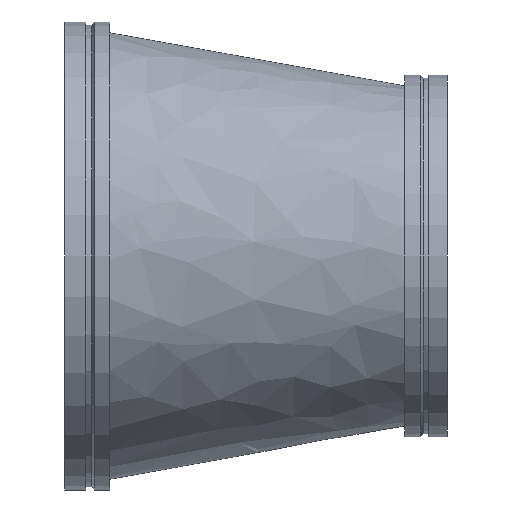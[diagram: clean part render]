
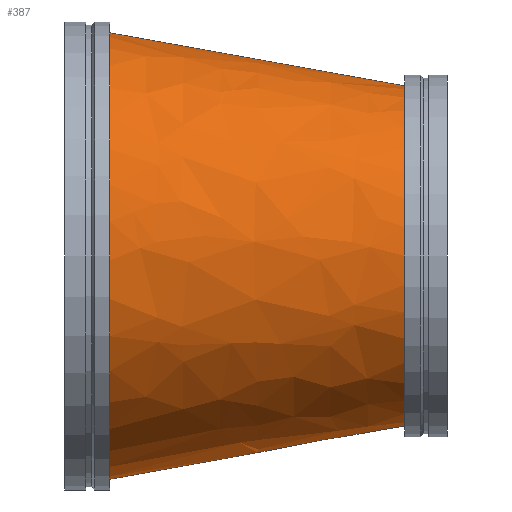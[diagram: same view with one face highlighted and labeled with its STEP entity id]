
A CAD part, front view. The second image highlights one B-rep face of the part: STEP entity #387.
In plain terms, the highlighted free-form (B-spline) face has degree [1, 2] with [2, 9] control points.
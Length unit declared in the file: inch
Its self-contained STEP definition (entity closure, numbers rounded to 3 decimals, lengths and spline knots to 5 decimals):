
#46=B_SPLINE_CURVE_WITH_KNOTS('',1,(#747,#748),.UNSPECIFIED.,.F.,.F.,(2,
2),(-1.36708,-0.00533),.UNSPECIFIED.);
#48=(
BOUNDED_SURFACE()
B_SPLINE_SURFACE(1,2,((#729,#730,#731,#732,#733,#734,#735,#736,#737),(#738,
#739,#740,#741,#742,#743,#744,#745,#746)),.UNSPECIFIED.,.F.,.T.,.F.)
B_SPLINE_SURFACE_WITH_KNOTS((2,2),(3,2,2,2,3),(-0.17468,1.49611),
(-3.14159,-1.5708,0.,1.5708,3.14159),
 .UNSPECIFIED.)
GEOMETRIC_REPRESENTATION_ITEM()
RATIONAL_B_SPLINE_SURFACE(((1.,0.707,1.,0.707,1.,
0.707,1.,0.707,1.),(1.,0.707,1.,0.707,
1.,0.707,1.,0.707,1.)))
REPRESENTATION_ITEM('')
SURFACE()
);
#98=FACE_OUTER_BOUND('',#120,.T.);
#120=EDGE_LOOP('',(#321,#322,#323,#324,#325,#326));
#129=CIRCLE('',#415,16.);
#130=CIRCLE('',#416,16.);
#153=CIRCLE('',#450,21.);
#154=CIRCLE('',#451,21.);
#166=VERTEX_POINT('',#628);
#167=VERTEX_POINT('',#629);
#190=VERTEX_POINT('',#695);
#191=VERTEX_POINT('',#696);
#203=EDGE_CURVE('',#166,#167,#129,.T.);
#204=EDGE_CURVE('',#167,#166,#130,.T.);
#235=EDGE_CURVE('',#190,#191,#153,.T.);
#236=EDGE_CURVE('',#191,#190,#154,.T.);
#243=EDGE_CURVE('',#167,#191,#46,.T.);
#321=ORIENTED_EDGE('',*,*,#203,.T.);
#322=ORIENTED_EDGE('',*,*,#243,.T.);
#323=ORIENTED_EDGE('',*,*,#236,.T.);
#324=ORIENTED_EDGE('',*,*,#235,.T.);
#325=ORIENTED_EDGE('',*,*,#243,.F.);
#326=ORIENTED_EDGE('',*,*,#204,.T.);
#387=ADVANCED_FACE('',(#98),#48,.F.);
#415=AXIS2_PLACEMENT_3D('',#630,#486,#487);
#416=AXIS2_PLACEMENT_3D('',#631,#488,#489);
#450=AXIS2_PLACEMENT_3D('',#697,#564,#565);
#451=AXIS2_PLACEMENT_3D('',#698,#566,#567);
#486=DIRECTION('center_axis',(-1.,0.,0.));
#487=DIRECTION('ref_axis',(0.,-1.,0.));
#488=DIRECTION('center_axis',(-1.,0.,0.));
#489=DIRECTION('ref_axis',(0.,-1.,0.));
#564=DIRECTION('center_axis',(1.,0.,0.));
#565=DIRECTION('ref_axis',(0.,1.,0.));
#566=DIRECTION('center_axis',(1.,0.,0.));
#567=DIRECTION('ref_axis',(0.,1.,0.));
#628=CARTESIAN_POINT('',(32.,-21.,0.));
#629=CARTESIAN_POINT('',(32.,-5.48822,15.99255));
#630=CARTESIAN_POINT('Origin',(32.,-5.,0.));
#631=CARTESIAN_POINT('Origin',(32.,-5.,0.));
#695=CARTESIAN_POINT('',(4.25,21.,0.));
#696=CARTESIAN_POINT('',(4.25,-0.64079,20.99022));
#697=CARTESIAN_POINT('Origin',(4.25,0.,0.));
#698=CARTESIAN_POINT('Origin',(4.25,0.,0.));
#729=CARTESIAN_POINT('Ctrl Pts',(0.58167,0.,
21.65087));
#730=CARTESIAN_POINT('Ctrl Pts',(-3.08665,-21.,21.65087));
#731=CARTESIAN_POINT('Ctrl Pts',(-3.08665,-21.,0.));
#732=CARTESIAN_POINT('Ctrl Pts',(-3.08665,-21.,-21.65087));
#733=CARTESIAN_POINT('Ctrl Pts',(0.58167,0.,
-21.65087));
#734=CARTESIAN_POINT('Ctrl Pts',(4.25,21.,-21.65087));
#735=CARTESIAN_POINT('Ctrl Pts',(4.25,21.,0.));
#736=CARTESIAN_POINT('Ctrl Pts',(4.25,21.,21.65087));
#737=CARTESIAN_POINT('Ctrl Pts',(0.58167,0.,
21.65087));
#738=CARTESIAN_POINT('Ctrl Pts',(34.6294,-5.94753,15.519));
#739=CARTESIAN_POINT('Ctrl Pts',(32.,-21.,15.519));
#740=CARTESIAN_POINT('Ctrl Pts',(32.,-21.,0.));
#741=CARTESIAN_POINT('Ctrl Pts',(32.,-21.,-15.519));
#742=CARTESIAN_POINT('Ctrl Pts',(34.6294,-5.94753,-15.519));
#743=CARTESIAN_POINT('Ctrl Pts',(37.2588,9.10494,-15.519));
#744=CARTESIAN_POINT('Ctrl Pts',(37.2588,9.10494,0.));
#745=CARTESIAN_POINT('Ctrl Pts',(37.2588,9.10494,15.519));
#746=CARTESIAN_POINT('Ctrl Pts',(34.6294,-5.94753,15.519));
#747=CARTESIAN_POINT('Ctrl Pts',(32.,-5.48822,15.99255));
#748=CARTESIAN_POINT('Ctrl Pts',(4.25,-0.64079,20.99022));
